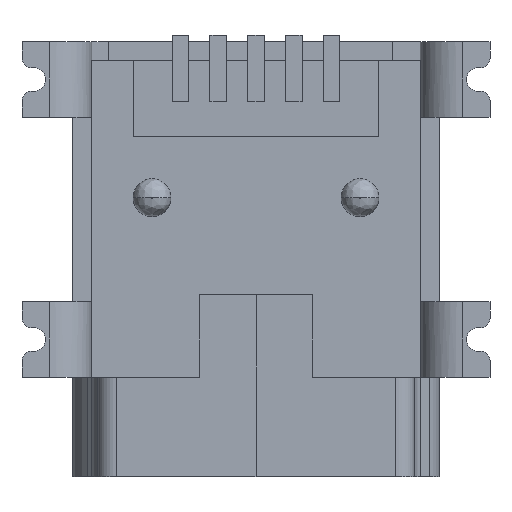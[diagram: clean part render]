
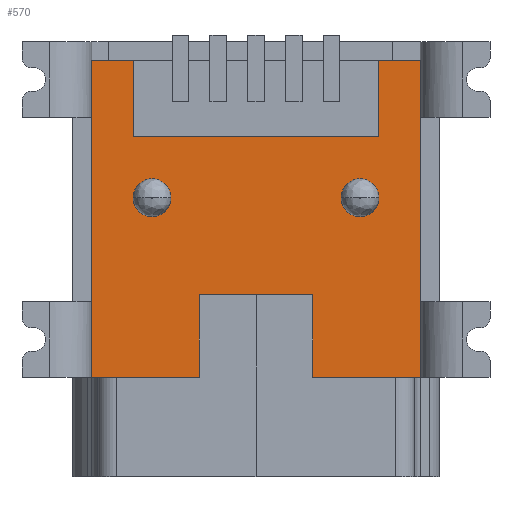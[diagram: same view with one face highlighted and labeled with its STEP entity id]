
A CAD part, top view. The second image highlights one B-rep face of the part: STEP entity #570.
In plain terms, the highlighted planar face has unit normal (0, 0, 1).
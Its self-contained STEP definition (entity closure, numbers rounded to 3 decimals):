
#29=DIRECTION('',(1.,0.,0.));
#30=VECTOR('',#29,2.4);
#31=CARTESIAN_POINT('',(-1.2,3.85,1.95));
#32=LINE('',#31,#30);
#33=DIRECTION('',(0.,1.,0.));
#34=VECTOR('',#33,1.75);
#35=CARTESIAN_POINT('',(-1.2,2.1,1.95));
#36=LINE('',#35,#34);
#37=DIRECTION('',(1.,0.,0.));
#38=VECTOR('',#37,2.275);
#39=CARTESIAN_POINT('',(-3.475,2.1,1.95));
#40=LINE('',#39,#38);
#41=DIRECTION('',(0.,-1.,0.));
#42=VECTOR('',#41,6.7);
#43=CARTESIAN_POINT('',(-3.475,8.8,1.95));
#44=LINE('',#43,#42);
#45=DIRECTION('',(-1.,0.,0.));
#46=VECTOR('',#45,0.875);
#47=CARTESIAN_POINT('',(-2.6,8.8,1.95));
#48=LINE('',#47,#46);
#49=DIRECTION('',(0.,1.,0.));
#50=VECTOR('',#49,1.6);
#51=CARTESIAN_POINT('',(-2.6,7.2,1.95));
#52=LINE('',#51,#50);
#53=DIRECTION('',(-1.,0.,0.));
#54=VECTOR('',#53,5.2);
#55=CARTESIAN_POINT('',(2.6,7.2,1.95));
#56=LINE('',#55,#54);
#57=DIRECTION('',(0.,-1.,0.));
#58=VECTOR('',#57,1.6);
#59=CARTESIAN_POINT('',(2.6,8.8,1.95));
#60=LINE('',#59,#58);
#61=DIRECTION('',(-1.,0.,0.));
#62=VECTOR('',#61,0.875);
#63=CARTESIAN_POINT('',(3.475,8.8,1.95));
#64=LINE('',#63,#62);
#65=DIRECTION('',(0.,1.,0.));
#66=VECTOR('',#65,6.7);
#67=CARTESIAN_POINT('',(3.475,2.1,1.95));
#68=LINE('',#67,#66);
#69=DIRECTION('',(1.,0.,0.));
#70=VECTOR('',#69,2.275);
#71=CARTESIAN_POINT('',(1.2,2.1,1.95));
#72=LINE('',#71,#70);
#73=CARTESIAN_POINT('',(-2.2,5.9,1.95));
#74=DIRECTION('',(0.,0.,-1.));
#75=DIRECTION('',(1.,0.,0.));
#76=AXIS2_PLACEMENT_3D('',#73,#74,#75);
#78=CARTESIAN_POINT('',(-2.2,5.9,1.95));
#79=DIRECTION('',(0.,0.,-1.));
#80=DIRECTION('',(-1.,0.,0.));
#81=AXIS2_PLACEMENT_3D('',#78,#79,#80);
#83=CARTESIAN_POINT('',(2.2,5.9,1.95));
#84=DIRECTION('',(0.,0.,-1.));
#85=DIRECTION('',(1.,0.,0.));
#86=AXIS2_PLACEMENT_3D('',#83,#84,#85);
#88=CARTESIAN_POINT('',(2.2,5.9,1.95));
#89=DIRECTION('',(0.,0.,-1.));
#90=DIRECTION('',(-1.,0.,0.));
#91=AXIS2_PLACEMENT_3D('',#88,#89,#90);
#93=DIRECTION('',(0.,-1.,0.));
#94=VECTOR('',#93,1.75);
#95=CARTESIAN_POINT('',(1.2,3.85,1.95));
#96=LINE('',#95,#94);
#414=CARTESIAN_POINT('',(1.2,3.85,1.95));
#416=VERTEX_POINT('',#414);
#417=CARTESIAN_POINT('',(-3.475,2.1,1.95));
#418=CARTESIAN_POINT('',(-1.2,2.1,1.95));
#419=VERTEX_POINT('',#417);
#420=VERTEX_POINT('',#418);
#421=CARTESIAN_POINT('',(-3.475,8.8,1.95));
#422=VERTEX_POINT('',#421);
#423=CARTESIAN_POINT('',(-2.6,8.8,1.95));
#424=VERTEX_POINT('',#423);
#425=CARTESIAN_POINT('',(3.475,8.8,1.95));
#426=CARTESIAN_POINT('',(2.6,8.8,1.95));
#427=VERTEX_POINT('',#425);
#428=VERTEX_POINT('',#426);
#429=CARTESIAN_POINT('',(3.475,2.1,1.95));
#430=VERTEX_POINT('',#429);
#431=CARTESIAN_POINT('',(1.2,2.1,1.95));
#432=VERTEX_POINT('',#431);
#434=CARTESIAN_POINT('',(-1.8,5.9,1.95));
#436=VERTEX_POINT('',#434);
#437=CARTESIAN_POINT('',(-2.6,5.9,1.95));
#439=VERTEX_POINT('',#437);
#453=CARTESIAN_POINT('',(2.6,5.9,1.95));
#454=VERTEX_POINT('',#453);
#455=CARTESIAN_POINT('',(1.8,5.9,1.95));
#456=VERTEX_POINT('',#455);
#458=CARTESIAN_POINT('',(-1.2,3.85,1.95));
#460=VERTEX_POINT('',#458);
#469=CARTESIAN_POINT('',(2.6,7.2,1.95));
#471=VERTEX_POINT('',#469);
#473=CARTESIAN_POINT('',(-2.6,7.2,1.95));
#475=VERTEX_POINT('',#473);
#531=CARTESIAN_POINT('',(0.,5.45,1.95));
#532=DIRECTION('',(0.,0.,1.));
#533=DIRECTION('',(1.,0.,0.));
#534=AXIS2_PLACEMENT_3D('',#531,#532,#533);
#535=PLANE('',#534);
#537=ORIENTED_EDGE('',*,*,#536,.F.);
#539=ORIENTED_EDGE('',*,*,#538,.F.);
#541=ORIENTED_EDGE('',*,*,#540,.F.);
#543=ORIENTED_EDGE('',*,*,#542,.F.);
#545=ORIENTED_EDGE('',*,*,#544,.F.);
#546=ORIENTED_EDGE('',*,*,#503,.F.);
#547=ORIENTED_EDGE('',*,*,#488,.F.);
#549=ORIENTED_EDGE('',*,*,#548,.F.);
#550=ORIENTED_EDGE('',*,*,#522,.F.);
#551=ORIENTED_EDGE('',*,*,#511,.F.);
#553=ORIENTED_EDGE('',*,*,#552,.F.);
#555=ORIENTED_EDGE('',*,*,#554,.F.);
#556=EDGE_LOOP('',(#537,#539,#541,#543,#545,#546,#547,#549,#550,#551,#553,
#555));
#557=FACE_OUTER_BOUND('',#556,.F.);
#559=ORIENTED_EDGE('',*,*,#558,.F.);
#561=ORIENTED_EDGE('',*,*,#560,.F.);
#562=EDGE_LOOP('',(#559,#561));
#563=FACE_BOUND('',#562,.F.);
#565=ORIENTED_EDGE('',*,*,#564,.F.);
#567=ORIENTED_EDGE('',*,*,#566,.F.);
#568=EDGE_LOOP('',(#565,#567));
#569=FACE_BOUND('',#568,.F.);
#570=ADVANCED_FACE('',(#557,#563,#569),#535,.T.);
#77=CIRCLE('',#76,0.4);
#82=CIRCLE('',#81,0.4);
#87=CIRCLE('',#86,0.4);
#92=CIRCLE('',#91,0.4);
#488=EDGE_CURVE('',#475,#424,#52,.T.);
#503=EDGE_CURVE('',#424,#422,#48,.T.);
#511=EDGE_CURVE('',#427,#428,#64,.T.);
#522=EDGE_CURVE('',#428,#471,#60,.T.);
#536=EDGE_CURVE('',#416,#432,#96,.T.);
#538=EDGE_CURVE('',#460,#416,#32,.T.);
#540=EDGE_CURVE('',#420,#460,#36,.T.);
#542=EDGE_CURVE('',#419,#420,#40,.T.);
#544=EDGE_CURVE('',#422,#419,#44,.T.);
#548=EDGE_CURVE('',#471,#475,#56,.T.);
#552=EDGE_CURVE('',#430,#427,#68,.T.);
#554=EDGE_CURVE('',#432,#430,#72,.T.);
#558=EDGE_CURVE('',#436,#439,#77,.T.);
#560=EDGE_CURVE('',#439,#436,#82,.T.);
#564=EDGE_CURVE('',#454,#456,#87,.T.);
#566=EDGE_CURVE('',#456,#454,#92,.T.);
